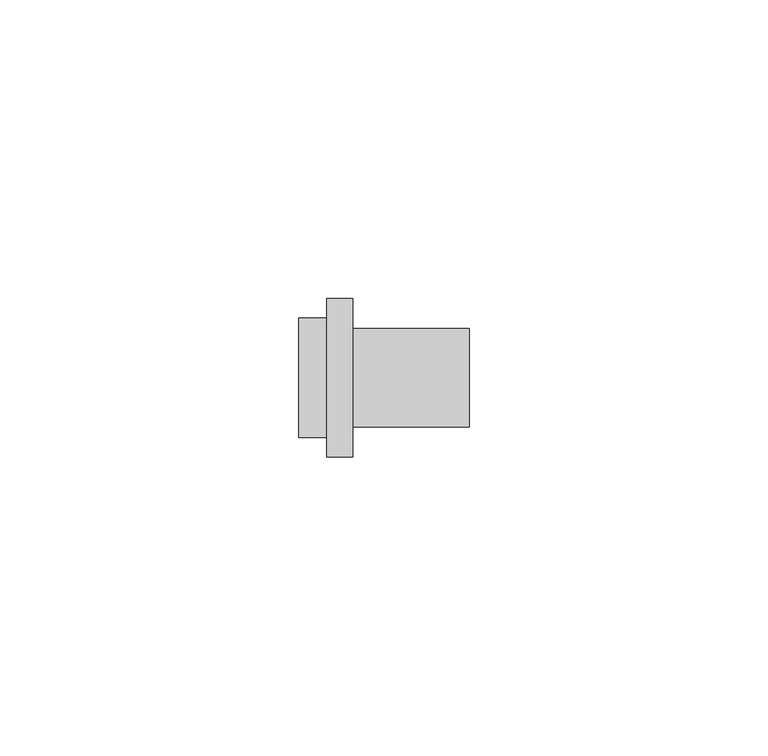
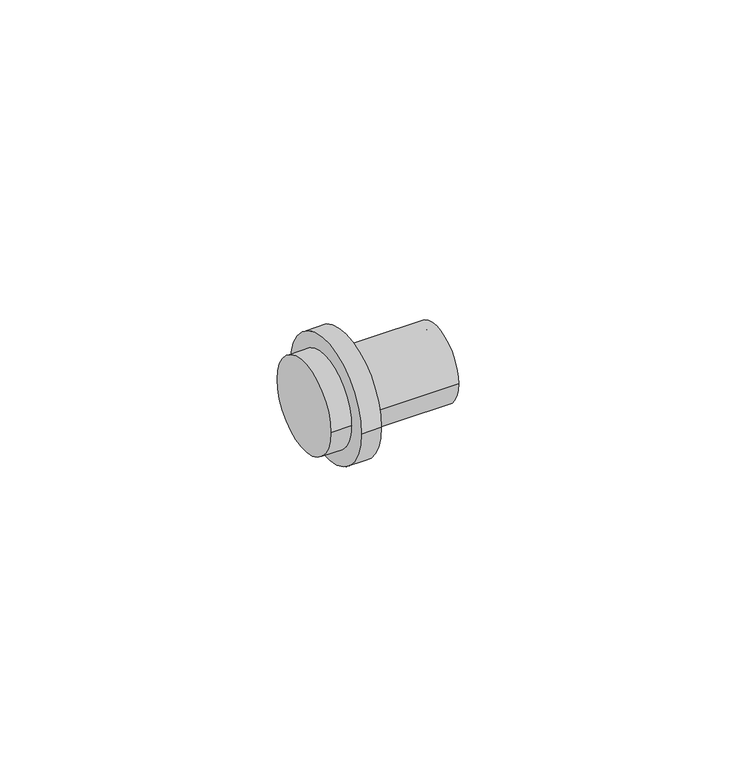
"""IFC4 building model written with IfcOpenShell, lengths in millimetres: pipe fitting geometry, REHAU_RAUTITAN_Dummy_Plug_RX+ : REHAU_RAUTITAN_Dummy_Plug_RX+."""

from ifc_helpers import new_model, si_unit, point, frame, origin, origin_2d, place, context, project, spatial, polyline, circle_curve, trimmed, segment, composite_curve, outline, extrude, source, transform, mapped, element, save
from ifc_brep_helpers import plane_surface, cylinder_surface, revolved_surface, advanced_brep


def pipe_fitting_7b1f8a8a(model_context):
    return source(origin(), model_context, "Body", "SolidModel", [
        extrude(outline(composite_curve([segment(trimmed(circle_curve(origin_2d(), 8.225), [point((-8.225, 0.0))], [point((8.225, 0.0))], False, "CARTESIAN"), True, "CONTINUOUS"), segment(trimmed(circle_curve(origin_2d(), 8.225), [point((8.225, 0.0))], [point((-8.225, 0.0))], False, "CARTESIAN"), True, "CONTINUOUS")], self_intersect=False), holes=[composite_curve([segment(trimmed(circle_curve(origin_2d(), 6.25), [point((-6.25, 0.0))], [point((6.25, 0.0))], True, "CARTESIAN"), True, "CONTINUOUS"), segment(trimmed(circle_curve(origin_2d(), 6.25), [point((6.25, 0.0))], [point((-6.25, 0.0))], True, "CARTESIAN"), True, "CONTINUOUS")], self_intersect=False)]), frame((1.3, 0.0, 0.0), z_axis=(1.0, 0.0, 0.0), x_axis=(0.0, 1.0, 0.0)), (0.0, 0.0, 1.0), 22.5),
        advanced_brep(
        [(4.3, -13.25, 0.0), (4.3, 13.25, 0.0), (4.3, 6.25, 0.0), (4.3, -6.25, 0.0), (0.0, -13.25, 0.0), (0.0, 13.25, 0.0), (1.3, -6.25, 0.0), (1.3, 6.25, 0.0)],
        [
            (0, 1, circle_curve(frame((4.3, 0.0, 0.0), z_axis=(1.0, 0.0, 0.0), x_axis=(0.0, 1.0, 0.0)), 13.25)),
            (1, 0, circle_curve(frame((4.3, 0.0, 0.0), z_axis=(1.0, 0.0, 0.0), x_axis=(0.0, 1.0, 0.0)), 13.25)),
            (2, 3, circle_curve(frame((4.3, 0.0, 0.0), z_axis=(-1.0, 0.0, 0.0), x_axis=(0.0, 1.0, 0.0)), 6.25)),
            (3, 2, circle_curve(frame((4.3, 0.0, 0.0), z_axis=(-1.0, 0.0, 0.0), x_axis=(0.0, 1.0, 0.0)), 6.25)),
            (4, 5, circle_curve(frame((0.0, 0.0, 0.0), z_axis=(-1.0, 0.0, 0.0), x_axis=(0.0, 1.0, 0.0)), 13.25)),
            (5, 4, circle_curve(frame((0.0, 0.0, 0.0), z_axis=(-1.0, 0.0, 0.0), x_axis=(0.0, 1.0, 0.0)), 13.25)),
            (0, 4),
            (5, 1),
            (6, 7, circle_curve(frame((1.3, 0.0, 0.0), z_axis=(1.0, 0.0, 0.0), x_axis=(0.0, 1.0, 0.0)), 6.25)),
            (7, 6, circle_curve(frame((1.3, 0.0, 0.0), z_axis=(1.0, 0.0, 0.0), x_axis=(0.0, 1.0, 0.0)), 6.25)),
            (6, 3),
            (2, 7),
        ],
        [
            plane_surface(frame((4.3, 13.25, 0.0), z_axis=(1.0, 0.0, 0.0), x_axis=(0.0, 0.0, 1.0))),
            plane_surface(frame((0.0, 13.25, 0.0), z_axis=(-1.0, 0.0, 0.0), x_axis=(0.0, 0.0, -1.0))),
            cylinder_surface(frame((0.0, 0.0, 0.0), z_axis=(1.0, 0.0, 0.0), x_axis=(0.0, 1.0, 0.0)), 13.25),
            plane_surface(frame((1.3, 6.25, 0.0), z_axis=(1.0, 0.0, 0.0), x_axis=(0.0, 0.0, -1.0))),
            revolved_surface(polyline([(4.3, 6.25, 0.0), (1.3, 6.25, 0.0)]), (1.3, 0.0, 0.0), (1.0, 0.0, 0.0)),
        ],
        [
            (0, [[1, 2], [3, 4]]),
            (1, [[5, 6]]),
            (2, [[-1, 7, -6, 8]]),
            (2, [[-2, -8, -5, -7]]),
            (3, [[9, 10]]),
            (4, [[-9, 11, -3, 12]]),
            (4, [[-10, -12, -4, -11]]),
        ],
    ),
        extrude(outline(composite_curve([segment(trimmed(circle_curve(origin_2d(), 10.0), [point((-10.0, 0.0))], [point((10.0, 0.0))], False, "CARTESIAN"), True, "CONTINUOUS"), segment(trimmed(circle_curve(origin_2d(), 10.0), [point((10.0, 0.0))], [point((-10.0, 0.0))], False, "CARTESIAN"), True, "CONTINUOUS")], self_intersect=False)), frame((-4.7, 0.0, 0.0), z_axis=(1.0, 0.0, 0.0), x_axis=(0.0, 1.0, 0.0)), (0.0, 0.0, 1.0), 4.7),
    ])


if __name__ == "__main__":
    model = new_model("IFC4")
    model_context = context("Model", 3, world=origin())
    ifc_project = project(units=[si_unit("LENGTHUNIT", "METRE", prefix="MILLI")], contexts=[model_context])
    site = spatial("IfcSite", under=ifc_project)
    building = spatial("IfcBuilding", under=site)
    placement = place(None, origin())
    pipe_fitting_shape = pipe_fitting_7b1f8a8a(model_context)
    element("IfcPipeFitting", 1, ObjectType="REHAU_RAUTITAN_Dummy_Plug_RX+ : REHAU_RAUTITAN_Dummy_Plug_RX+", at=placement, inside=building, context=model_context, shape_type="MappedRepresentation", body=[
        mapped(pipe_fitting_shape, transform((0.0, 0.0, 0.0), x_axis=(1.0, 0.0, 0.0), y_axis=(0.0, 1.0, 0.0), z_axis=(0.0, 0.0, 1.0))),
    ])
    save(model, "model.ifc")
